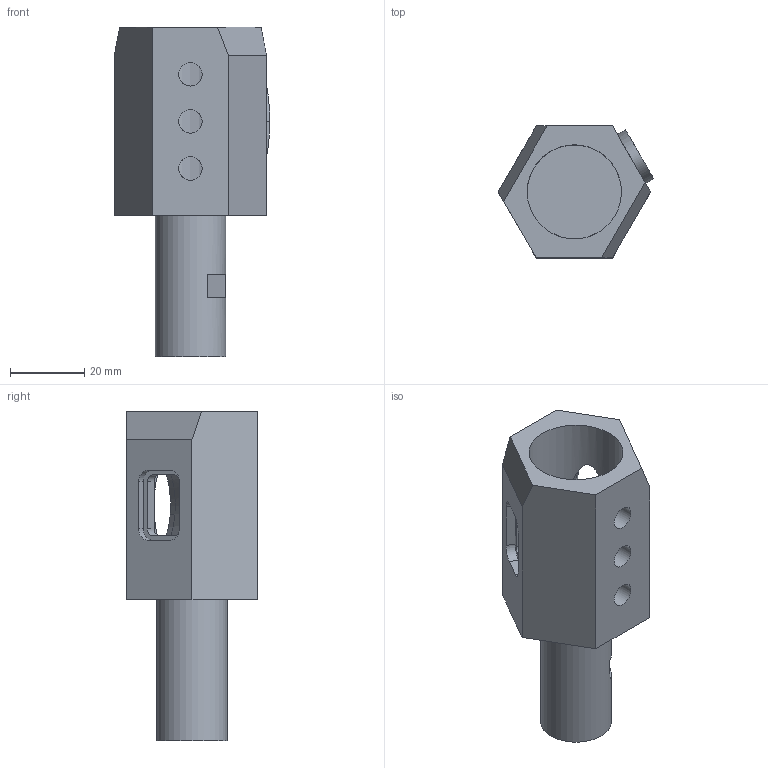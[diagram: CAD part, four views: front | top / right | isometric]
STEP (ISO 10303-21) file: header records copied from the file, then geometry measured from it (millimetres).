
FILE_DESCRIPTION((''),'2;1');
FILE_NAME('Q:\Vance\Day 5\Day 5 Part.stp','2022-05-31T08:07:07',(''),(''),'STEP Write','Mastercam 2022 ... CNC Software, Inc.','');
FILE_SCHEMA(('AUTOMOTIVE_DESIGN'));
Length unit declared in the file: inch
Products named in the file (1): None
Bounding box: 41.94 x 35.56 x 88.9 mm (x, y, z)
Volume: 42861.1 mm3; surface area: 14301.8 mm2
Topology: 1 solids, 1 shells, 44 faces, 112 edges, 75 vertices
Faces by surface type: plane 25, cylinder 13, bspline 6
Full cylindrical faces by diameter (mm): 6.35 x3, 19.05 x1, 25.4 x1
Entity records: 1831 total; most frequent: CARTESIAN_POINT 739, ORIENTED_EDGE 208, DIRECTION 190, EDGE_CURVE 104, VERTEX_POINT 72, EDGE_LOOP 64, VECTOR 64, LINE 64
